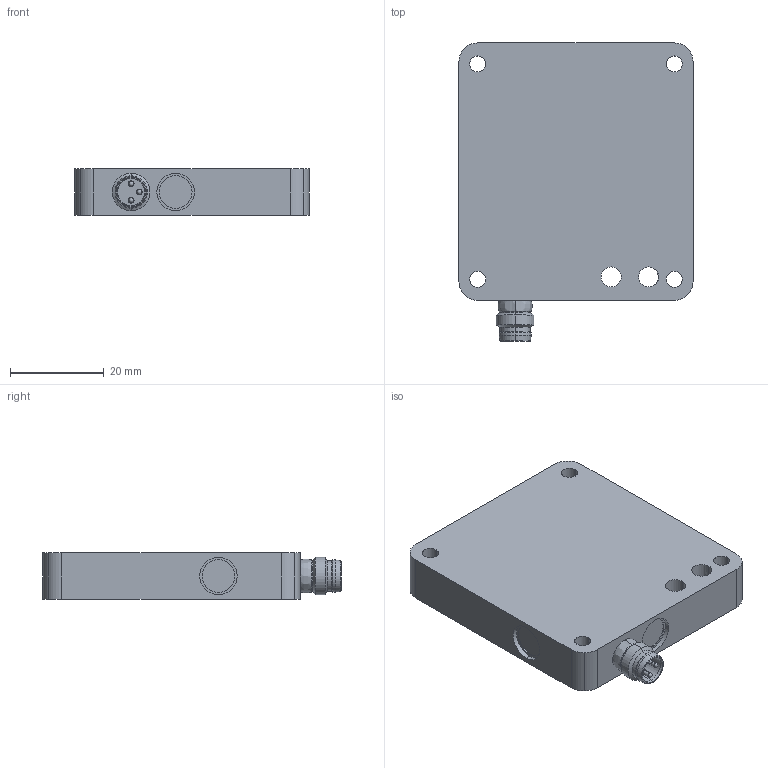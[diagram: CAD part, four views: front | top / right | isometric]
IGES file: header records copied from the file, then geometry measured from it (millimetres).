
Start section: IMSI TurboCAD v14.0
Global section: author: NULL; organization: NULL; date: 20201002.084302; units: millimetre
Bounding box: 50 x 63.7 x 10 mm (x, y, z)
Surface area: 8502.6 mm2 (no closed solid volume)
Topology: 0 solids, 0 shells, 108 faces, 490 edges, 484 vertices
Faces by surface type: revolution 83, extrusion 23, bspline 2
